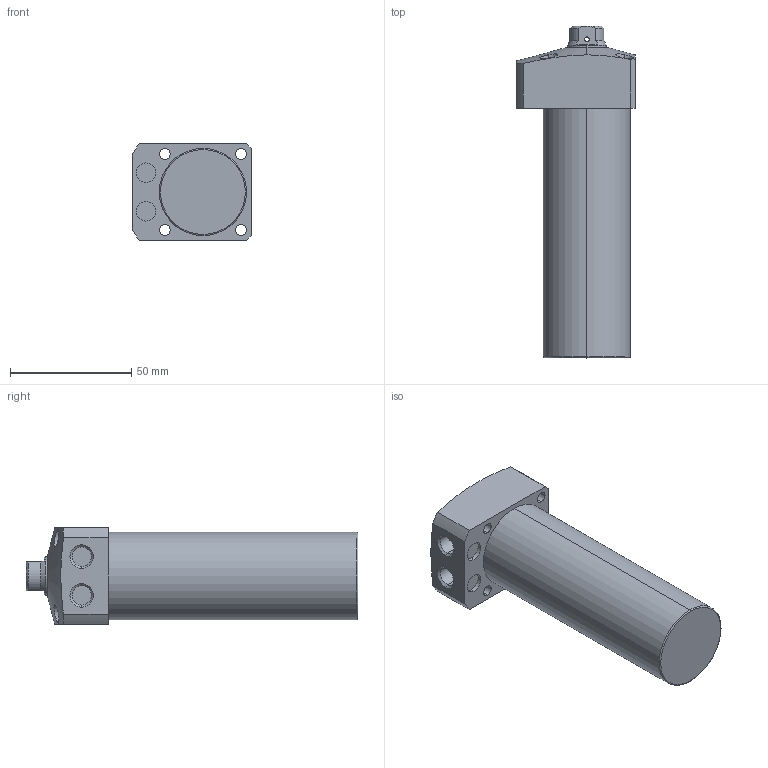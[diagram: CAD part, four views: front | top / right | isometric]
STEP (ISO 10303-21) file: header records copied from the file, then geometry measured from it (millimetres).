
FILE_DESCRIPTION (( 'STEP AP203' ), '1' );
FILE_NAME ('CLL-036CB-080.STEP', '2019-12-21T02:30:41', ( '' ), ( '' ), 'SwSTEP 2.0', 'SolidWorks 2015', '' );
FILE_SCHEMA (( 'CONFIG_CONTROL_DESIGN' ));
Length unit declared in the file: millimetre
Products named in the file (1): CLL-036CB-080
Bounding box: 49 x 137 x 40 mm (x, y, z)
Volume: 146261.4 mm3; surface area: 21857.1 mm2
Topology: 1 solids, 1 shells, 76 faces, 184 edges, 117 vertices
Faces by surface type: cylinder 38, plane 22, cone 14, torus 2
Entity records: 2699 total; most frequent: CARTESIAN_POINT 814, DIRECTION 386, ORIENTED_EDGE 364, EDGE_CURVE 182, AXIS2_PLACEMENT_3D 159, VERTEX_POINT 117, EDGE_LOOP 97, CIRCLE 82
